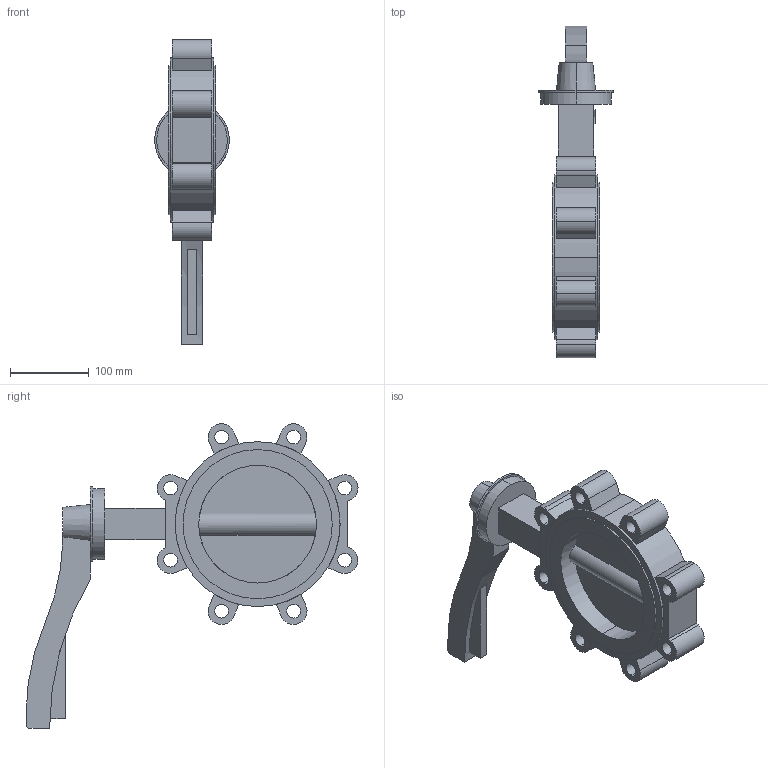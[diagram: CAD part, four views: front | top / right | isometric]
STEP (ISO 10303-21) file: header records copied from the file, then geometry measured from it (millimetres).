
FILE_DESCRIPTION (( 'STEP AP214' ), '1' );
FILE_NAME ('E124_150.STEP', '2021-05-28T12:34:21', ( '' ), ( '' ), 'SwSTEP 2.0', 'SolidWorks 2020', '' );
FILE_SCHEMA (( 'AUTOMOTIVE_DESIGN' ));
Length unit declared in the file: millimetre
Products named in the file (1): E124_150
Bounding box: 95 x 422.86 x 387.87 mm (x, y, z)
Volume: 2153334.2 mm3; surface area: 255169.2 mm2
Topology: 1 solids, 1 shells, 118 faces, 301 edges, 200 vertices
Faces by surface type: plane 68, cylinder 48, cone 2
Entity records: 5069 total; most frequent: CARTESIAN_POINT 798, DIRECTION 649, ORIENTED_EDGE 602, EDGE_CURVE 301, AXIS2_PLACEMENT_3D 235, VERTEX_POINT 200, VECTOR 179, LINE 179
